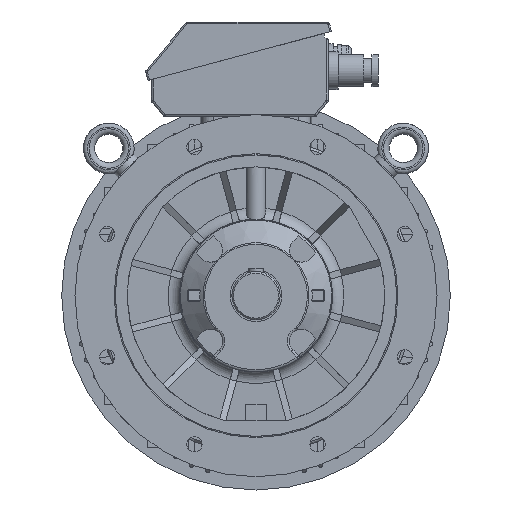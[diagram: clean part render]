
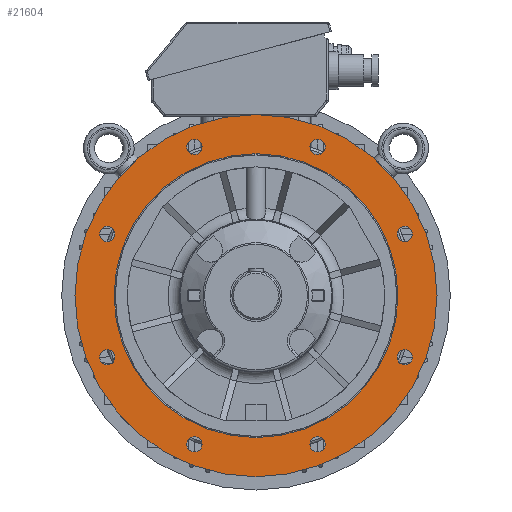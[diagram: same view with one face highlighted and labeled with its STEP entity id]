
A CAD part, front view. The second image highlights one B-rep face of the part: STEP entity #21604.
In plain terms, the highlighted planar face has unit normal (0, -1, 0).
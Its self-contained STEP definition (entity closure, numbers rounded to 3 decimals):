
#598=PLANE('',#23113);
#7627=ORIENTED_EDGE('',*,*,#10173,.F.);
#7628=ORIENTED_EDGE('',*,*,#10174,.F.);
#7629=ORIENTED_EDGE('',*,*,#10175,.F.);
#7630=ORIENTED_EDGE('',*,*,#10176,.F.);
#7631=ORIENTED_EDGE('',*,*,#10177,.F.);
#7632=ORIENTED_EDGE('',*,*,#10178,.F.);
#7633=ORIENTED_EDGE('',*,*,#10179,.F.);
#7634=ORIENTED_EDGE('',*,*,#10180,.F.);
#7635=ORIENTED_EDGE('',*,*,#10181,.F.);
#7636=ORIENTED_EDGE('',*,*,#10023,.F.);
#10023=EDGE_CURVE('',#11715,#11715,#12459,.T.);
#10173=EDGE_CURVE('',#11771,#11771,#12483,.T.);
#10174=EDGE_CURVE('',#11772,#11772,#12484,.T.);
#10175=EDGE_CURVE('',#11773,#11773,#12485,.T.);
#10176=EDGE_CURVE('',#11774,#11774,#12486,.T.);
#10177=EDGE_CURVE('',#11775,#11775,#12487,.T.);
#10178=EDGE_CURVE('',#11776,#11776,#12488,.T.);
#10179=EDGE_CURVE('',#11777,#11777,#12489,.T.);
#10180=EDGE_CURVE('',#11778,#11778,#12490,.T.);
#10181=EDGE_CURVE('',#11779,#11779,#12491,.T.);
#11715=VERTEX_POINT('',#32378);
#11771=VERTEX_POINT('',#32738);
#11772=VERTEX_POINT('',#32740);
#11773=VERTEX_POINT('',#32742);
#11774=VERTEX_POINT('',#32744);
#11775=VERTEX_POINT('',#32746);
#11776=VERTEX_POINT('',#32748);
#11777=VERTEX_POINT('',#32750);
#11778=VERTEX_POINT('',#32752);
#11779=VERTEX_POINT('',#32754);
#12459=CIRCLE('',#22984,224.995);
#12483=CIRCLE('',#23114,176.395);
#12484=CIRCLE('',#23115,9.5);
#12485=CIRCLE('',#23116,9.5);
#12486=CIRCLE('',#23117,9.5);
#12487=CIRCLE('',#23118,9.5);
#12488=CIRCLE('',#23119,9.5);
#12489=CIRCLE('',#23120,9.5);
#12490=CIRCLE('',#23121,9.5);
#12491=CIRCLE('',#23122,9.5);
#13399=EDGE_LOOP('',(#7627));
#13400=EDGE_LOOP('',(#7628));
#13401=EDGE_LOOP('',(#7629));
#13402=EDGE_LOOP('',(#7630));
#13403=EDGE_LOOP('',(#7631));
#13404=EDGE_LOOP('',(#7632));
#13405=EDGE_LOOP('',(#7633));
#13406=EDGE_LOOP('',(#7634));
#13407=EDGE_LOOP('',(#7635));
#13408=EDGE_LOOP('',(#7636));
#14389=FACE_BOUND('',#13399,.T.);
#14390=FACE_BOUND('',#13400,.T.);
#14391=FACE_BOUND('',#13401,.T.);
#14392=FACE_BOUND('',#13402,.T.);
#14393=FACE_BOUND('',#13403,.T.);
#14394=FACE_BOUND('',#13404,.T.);
#14395=FACE_BOUND('',#13405,.T.);
#14396=FACE_BOUND('',#13406,.T.);
#14397=FACE_BOUND('',#13407,.T.);
#14398=FACE_BOUND('',#13408,.T.);
#21604=ADVANCED_FACE('',(#14389,#14390,#14391,#14392,#14393,#14394,#14395,
#14396,#14397,#14398),#598,.F.);
#22984=AXIS2_PLACEMENT_3D('',#32377,#26978,#26979);
#23113=AXIS2_PLACEMENT_3D('',#32736,#27346,#27347);
#23114=AXIS2_PLACEMENT_3D('',#32737,#27348,#27349);
#23115=AXIS2_PLACEMENT_3D('',#32739,#27350,#27351);
#23116=AXIS2_PLACEMENT_3D('',#32741,#27352,#27353);
#23117=AXIS2_PLACEMENT_3D('',#32743,#27354,#27355);
#23118=AXIS2_PLACEMENT_3D('',#32745,#27356,#27357);
#23119=AXIS2_PLACEMENT_3D('',#32747,#27358,#27359);
#23120=AXIS2_PLACEMENT_3D('',#32749,#27360,#27361);
#23121=AXIS2_PLACEMENT_3D('',#32751,#27362,#27363);
#23122=AXIS2_PLACEMENT_3D('',#32753,#27364,#27365);
#26978=DIRECTION('',(0.,1.,0.));
#26979=DIRECTION('',(-1.,0.,0.));
#27346=DIRECTION('',(0.,1.,0.));
#27347=DIRECTION('',(-1.,0.,0.));
#27348=DIRECTION('',(0.,-1.,0.));
#27349=DIRECTION('',(1.,0.,0.));
#27350=DIRECTION('',(0.,-1.,0.));
#27351=DIRECTION('',(1.,0.,0.));
#27352=DIRECTION('',(0.,-1.,0.));
#27353=DIRECTION('',(1.,0.,0.));
#27354=DIRECTION('',(0.,-1.,0.));
#27355=DIRECTION('',(1.,0.,0.));
#27356=DIRECTION('',(0.,-1.,0.));
#27357=DIRECTION('',(1.,0.,0.));
#27358=DIRECTION('',(0.,-1.,0.));
#27359=DIRECTION('',(1.,0.,0.));
#27360=DIRECTION('',(0.,-1.,0.));
#27361=DIRECTION('',(1.,0.,0.));
#27362=DIRECTION('',(0.,-1.,0.));
#27363=DIRECTION('',(1.,0.,0.));
#27364=DIRECTION('',(0.,-1.,0.));
#27365=DIRECTION('',(1.,0.,0.));
#32377=CARTESIAN_POINT('',(0.,-85.5,0.));
#32378=CARTESIAN_POINT('',(-224.995,-85.5,0.));
#32736=CARTESIAN_POINT('',(-176.395,-85.5,0.));
#32737=CARTESIAN_POINT('',(0.,-85.5,0.));
#32738=CARTESIAN_POINT('',(176.395,-85.5,0.));
#32739=CARTESIAN_POINT('',(184.776,-85.5,76.537));
#32740=CARTESIAN_POINT('',(194.276,-85.5,76.537));
#32741=CARTESIAN_POINT('',(184.776,-85.5,-76.537));
#32742=CARTESIAN_POINT('',(194.276,-85.5,-76.537));
#32743=CARTESIAN_POINT('',(76.537,-85.5,-184.776));
#32744=CARTESIAN_POINT('',(86.037,-85.5,-184.776));
#32745=CARTESIAN_POINT('',(-76.537,-85.5,-184.776));
#32746=CARTESIAN_POINT('',(-67.037,-85.5,-184.776));
#32747=CARTESIAN_POINT('',(-184.776,-85.5,-76.537));
#32748=CARTESIAN_POINT('',(-175.276,-85.5,-76.537));
#32749=CARTESIAN_POINT('',(-184.776,-85.5,76.537));
#32750=CARTESIAN_POINT('',(-175.276,-85.5,76.537));
#32751=CARTESIAN_POINT('',(-76.537,-85.5,184.776));
#32752=CARTESIAN_POINT('',(-67.037,-85.5,184.776));
#32753=CARTESIAN_POINT('',(76.537,-85.5,184.776));
#32754=CARTESIAN_POINT('',(86.037,-85.5,184.776));
